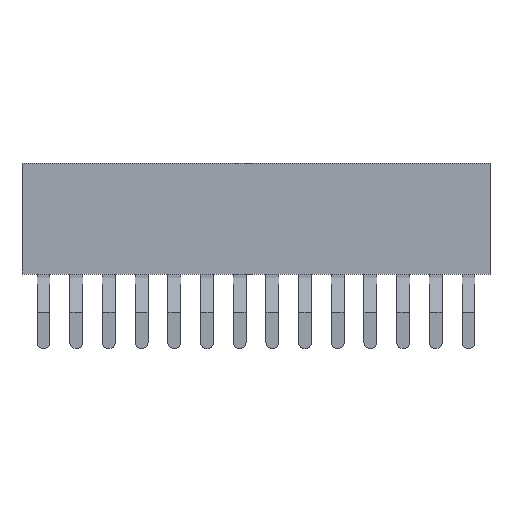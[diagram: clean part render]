
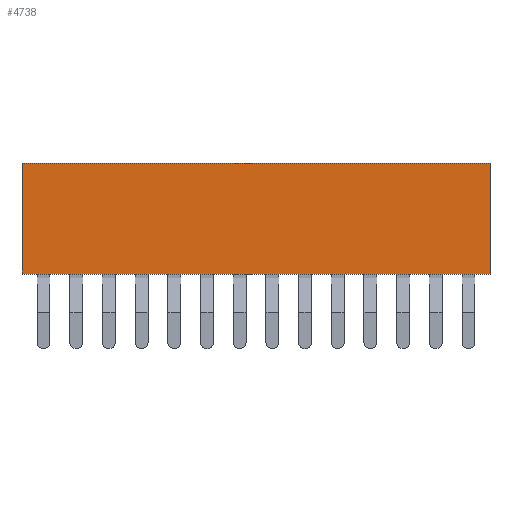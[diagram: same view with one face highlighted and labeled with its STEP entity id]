
A CAD part, top view. The second image highlights one B-rep face of the part: STEP entity #4738.
In plain terms, the highlighted planar face has unit normal (0, 0, 1).
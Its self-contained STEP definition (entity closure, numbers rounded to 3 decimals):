
#302=FACE_OUTER_BOUND('',#578,.T.);
#578=EDGE_LOOP('',(#4191,#4192,#4193,#4194));
#627=LINE('',#6361,#1253);
#1180=LINE('',#7546,#1806);
#1204=LINE('',#7578,#1830);
#1205=LINE('',#7580,#1831);
#1253=VECTOR('',#5141,10.);
#1806=VECTOR('',#6216,10.);
#1830=VECTOR('',#6250,10.);
#1831=VECTOR('',#6253,10.);
#1893=VERTEX_POINT('',#6358);
#1894=VERTEX_POINT('',#6360);
#2264=VERTEX_POINT('',#7543);
#2265=VERTEX_POINT('',#7545);
#2317=EDGE_CURVE('',#1894,#1893,#627,.T.);
#2896=EDGE_CURVE('',#2265,#2264,#1180,.T.);
#2920=EDGE_CURVE('',#2265,#1893,#1204,.T.);
#2921=EDGE_CURVE('',#2264,#1894,#1205,.T.);
#4191=ORIENTED_EDGE('',*,*,#2896,.T.);
#4192=ORIENTED_EDGE('',*,*,#2921,.T.);
#4193=ORIENTED_EDGE('',*,*,#2317,.T.);
#4194=ORIENTED_EDGE('',*,*,#2920,.F.);
#4476=PLANE('',#5048);
#4738=ADVANCED_FACE('',(#302),#4476,.T.);
#5048=AXIS2_PLACEMENT_3D('',#7579,#6251,#6252);
#5141=DIRECTION('',(0.,1.,0.));
#6216=DIRECTION('',(0.,-1.,0.));
#6250=DIRECTION('',(1.,0.,0.));
#6251=DIRECTION('center_axis',(0.,0.,1.));
#6252=DIRECTION('ref_axis',(1.,0.,0.));
#6253=DIRECTION('',(1.,0.,0.));
#6358=CARTESIAN_POINT('',(4.21,4.3,0.));
#6360=CARTESIAN_POINT('',(4.21,0.,0.));
#6361=CARTESIAN_POINT('',(4.21,0.,0.));
#7543=CARTESIAN_POINT('',(-13.97,0.,0.));
#7545=CARTESIAN_POINT('',(-13.97,4.3,0.));
#7546=CARTESIAN_POINT('',(-13.97,0.,0.));
#7578=CARTESIAN_POINT('',(1.27,4.3,0.));
#7579=CARTESIAN_POINT('Origin',(-16.71,0.,0.));
#7580=CARTESIAN_POINT('',(1.27,0.,0.));
